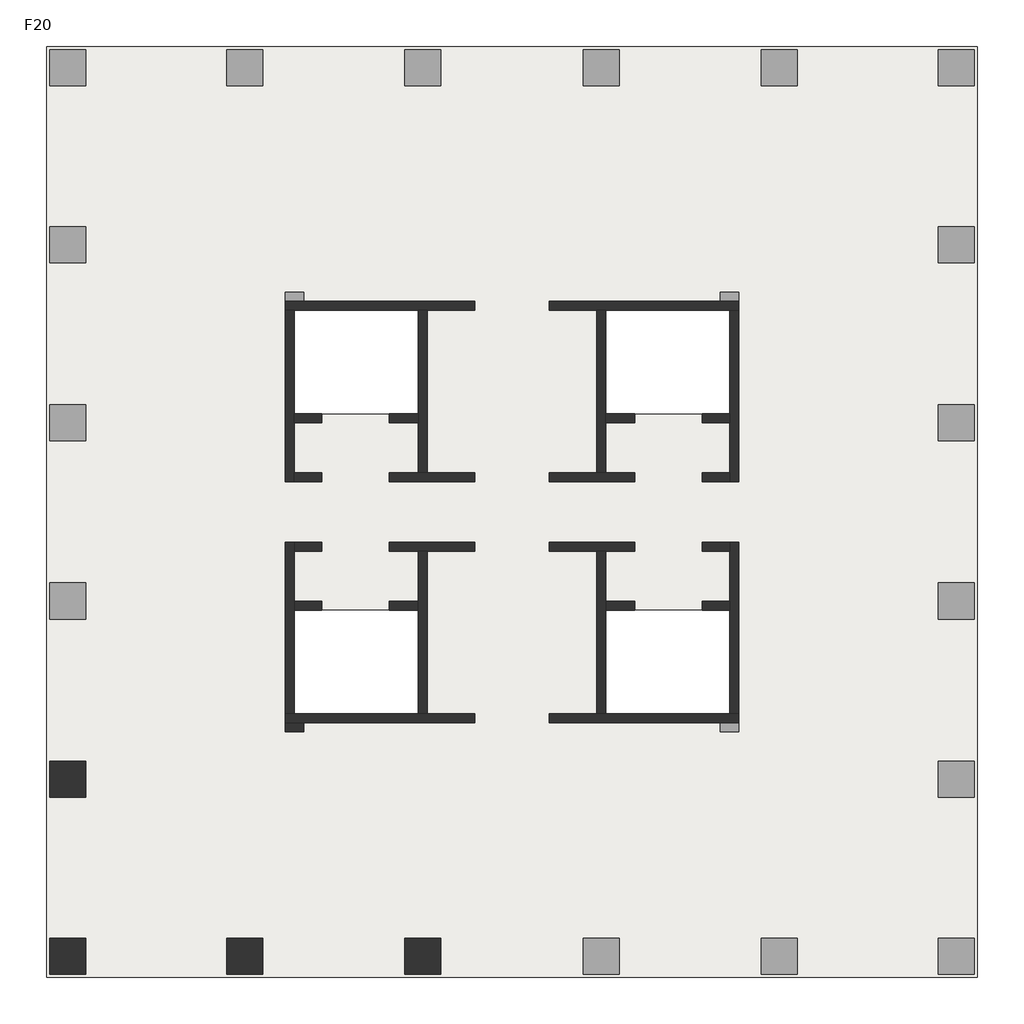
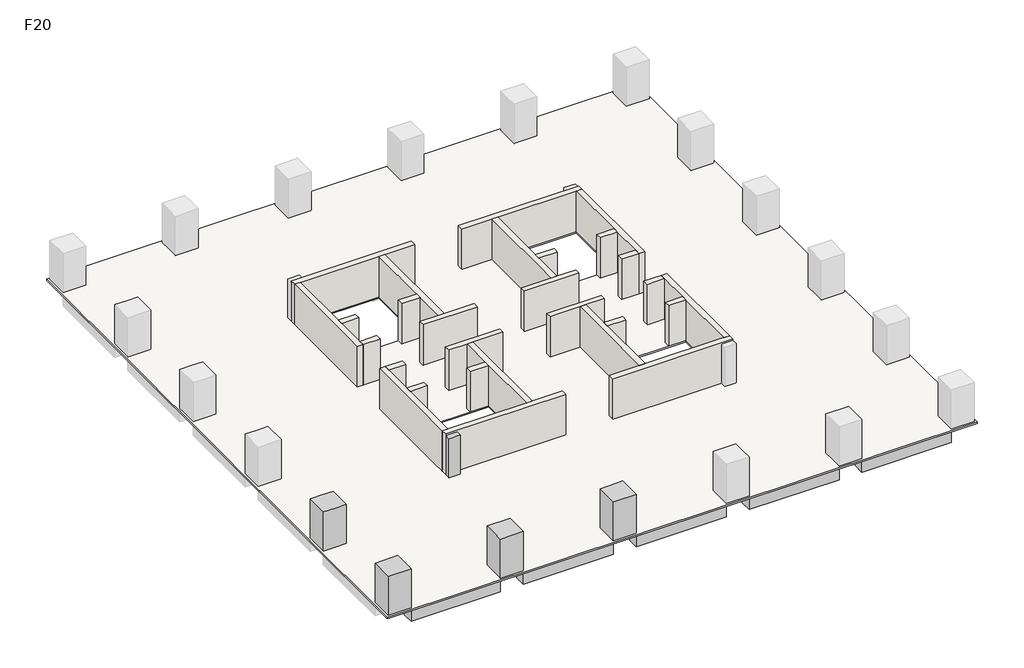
# One storey, part 1 of 2: 28 walls, 5 columns, 3 beams, 1 slab.
"""IFC4 building model written with IfcOpenShell, lengths in millimetres."""

from ifc_helpers import new_model, si_unit, frame, origin, place, context, project, spatial, polyline, outline, extrude, faceted_brep, element, save

model = new_model("IFC4")

# Units and contexts
model_context = context("Model", 3, world=origin())
ifc_project = project(units=[si_unit("LENGTHUNIT", "METRE", prefix="MILLI")], contexts=[model_context])

# Site, building, storey
site = spatial("IfcSite", under=ifc_project)
building = spatial("IfcBuilding", under=site)
storey = spatial("IfcBuildingStorey", under=building, Name="F20", Elevation=78000.0)

# Beams
placement = place(None, origin())
element("IfcBeam", 1, ObjectType="混凝土 - 矩形梁 : KL(5)-800x1000", at=placement, inside=storey, context=model_context, shape_type="SweptSolid", body=[
    extrude(outline(polyline([(-12472.6742169, -13948.9501342), (-12472.6742169, -13148.9501342), (-6222.6742169, -13148.9501342), (-6222.6742169, -13948.9501342), (-12472.6742169, -13948.9501342)])), frame((0.0, 0.0, 77000.0), z_axis=(0.0, 0.0, 1.0), x_axis=(1.0, 0.0, 0.0)), (0.0, 0.0, 1.0), 900.0),
    extrude(outline(polyline([(25327.3257831, -13148.9501342), (25327.3257831, -13948.9501342), (19077.3257831, -13948.9501342), (19077.3257831, -13148.9501342), (25327.3257831, -13148.9501342)])), frame((0.0, 0.0, 77000.0), z_axis=(0.0, 0.0, 1.0), x_axis=(1.0, 0.0, 0.0)), (0.0, 0.0, 1.0), 900.0),
    extrude(outline(polyline([(-4622.6742169, -13948.9501342), (-4622.6742169, -13148.9501342), (1677.3257831, -13148.9501342), (1677.3257831, -13948.9501342), (-4622.6742169, -13948.9501342)])), frame((0.0, 0.0, 77000.0), z_axis=(0.0, 0.0, 1.0), x_axis=(1.0, 0.0, 0.0)), (0.0, 0.0, 1.0), 900.0),
    extrude(outline(polyline([(3277.3257831, -13948.9501342), (3277.3257831, -13148.9501342), (9577.3257831, -13148.9501342), (9577.3257831, -13948.9501342), (3277.3257831, -13948.9501342)])), frame((0.0, 0.0, 77000.0), z_axis=(0.0, 0.0, 1.0), x_axis=(1.0, 0.0, 0.0)), (0.0, 0.0, 1.0), 900.0),
    extrude(outline(polyline([(11177.3257831, -13948.9501342), (11177.3257831, -13148.9501342), (17477.3257831, -13148.9501342), (17477.3257831, -13948.9501342), (11177.3257831, -13948.9501342)])), frame((0.0, 0.0, 77000.0), z_axis=(0.0, 0.0, 1.0), x_axis=(1.0, 0.0, 0.0)), (0.0, 0.0, 1.0), 900.0),
])
element("IfcBeam", 2, ObjectType="混凝土 - 矩形梁 : L1-800x500", at=placement, inside=storey, context=model_context, shape_type="Brep", body=[
    faceted_brep([(-12472.6742169, -5512.1353397, 77500.0), (-3746.9473979, -3341.556529, 77500.0), (-3173.6696907, -3198.9501342, 77500.0), (-3173.6696907, -3198.9501342, 77900.0), (-3746.9473979, -3341.556529, 77900.0), (-12472.6742169, -5512.1353397, 77900.0), (-3622.6742169, -3198.9501342, 77500.0), (-12472.6742169, -4687.7549784, 77500.0), (-3622.6742169, -2486.2624411, 77500.0), (-3622.6742169, -2798.9501342, 77500.0), (-12472.6742169, -4687.7549784, 77900.0), (-3622.6742169, -2486.2624411, 77900.0), (-3622.6742169, -3198.9501342, 77900.0)], [[[0, 1, 2, 3, 4, 5]], [[6, 2, 1, 0, 7, 8, 9]], [[8, 7, 10, 11]], [[2, 6, 12, 3]], [[9, 8, 11, 12, 6]], [[7, 0, 5, 10]], [[5, 4, 3, 12, 11, 10]]]),
])
element("IfcBeam", 3, ObjectType="混凝土 - 矩形梁 : L1-800x500", at=placement, inside=storey, context=model_context, shape_type="SweptSolid", body=[
    extrude(outline(polyline([(-3746.9473979, -3341.556529), (-3173.6696907, -3198.9501342), (-2898.7618154, -3198.9501342), (-4843.6893517, -12348.9501342), (-5661.5624638, -12348.9501342), (-3746.9473979, -3341.556529)])), frame((0.0, 0.0, 77500.0), z_axis=(0.0, 0.0, 1.0), x_axis=(1.0, 0.0, 0.0)), (0.0, 0.0, 1.0), 400.0),
])

# Columns
element("IfcColumn", 4, ObjectType="混凝土 - 矩形 - 柱 : Z1-1600x1600", at=placement, inside=storey, context=model_context, shape_type="Brep", body=[
    faceted_brep([(-12472.6742169, -4498.9501342, 78000.0), (-12472.6742169, -6098.9501342, 78000.0), (-14072.6742169, -6098.9501342, 78000.0), (-14072.6742169, -4498.9501342, 78000.0), (-12472.6742169, -4498.9501342, 80900.0), (-12472.6742169, -6098.9501342, 80900.0), (-13272.6742169, -6098.9501342, 80900.0), (-14072.6742169, -6098.9501342, 80900.0), (-14072.6742169, -6098.9501342, 80000.0), (-14072.6742169, -4498.9501342, 80900.0), (-14072.6742169, -4498.9501342, 80000.0), (-13272.6742169, -4498.9501342, 80900.0)], [[[0, 1, 2, 3]], [[1, 0, 4, 5]], [[2, 1, 5, 6, 7, 8]], [[3, 2, 8, 7, 9, 10]], [[0, 3, 10, 9, 11, 4]], [[5, 4, 11, 9, 7, 6]]]),
])
element("IfcColumn", 5, ObjectType="混凝土 - 矩形 - 柱 : Z1-1600x1600", at=placement, inside=storey, context=model_context, shape_type="SweptSolid", body=[
    extrude(outline(polyline([(-12472.6742169, -12348.9501342), (-12472.6742169, -13948.9501342), (-14072.6742169, -13948.9501342), (-14072.6742169, -12348.9501342), (-12472.6742169, -12348.9501342)])), frame((0.0, 0.0, 78000.0), z_axis=(0.0, 0.0, 1.0), x_axis=(1.0, 0.0, 0.0)), (0.0, 0.0, 1.0), 2900.0),
])
element("IfcColumn", 6, ObjectType="混凝土 - 矩形 - 柱 : Z1-1600x1600", at=placement, inside=storey, context=model_context, shape_type="Brep", body=[
    faceted_brep([(-4622.6742169, -12348.9501342, 78000.0), (-4622.6742169, -13948.9501342, 78000.0), (-6222.6742169, -13948.9501342, 78000.0), (-6222.6742169, -12348.9501342, 78000.0), (-4622.6742169, -12348.9501342, 80900.0), (-4622.6742169, -13148.9501342, 80900.0), (-4622.6742169, -13948.9501342, 80900.0), (-4622.6742169, -13948.9501342, 80000.0), (-6222.6742169, -13948.9501342, 80900.0), (-6222.6742169, -13948.9501342, 80000.0), (-6222.6742169, -13148.9501342, 80900.0), (-6222.6742169, -12348.9501342, 80900.0)], [[[0, 1, 2, 3]], [[1, 0, 4, 5, 6, 7]], [[2, 1, 7, 6, 8, 9]], [[3, 2, 9, 8, 10, 11]], [[0, 3, 11, 4]], [[6, 5, 4, 11, 10, 8]]]),
])
element("IfcColumn", 7, ObjectType="混凝土 - 矩形 - 柱 : Z1-1600x1600", at=placement, inside=storey, context=model_context, shape_type="Brep", body=[
    faceted_brep([(3277.3257831, -12348.9501342, 78000.0), (3277.3257831, -13948.9501342, 78000.0), (1677.3257831, -13948.9501342, 78000.0), (1677.3257831, -12348.9501342, 78000.0), (3277.3257831, -12348.9501342, 80900.0), (3277.3257831, -13148.9501342, 80900.0), (3277.3257831, -13948.9501342, 80900.0), (3277.3257831, -13948.9501342, 80000.0), (1677.3257831, -13948.9501342, 80900.0), (1677.3257831, -13948.9501342, 80000.0), (1677.3257831, -13148.9501342, 80900.0), (1677.3257831, -12348.9501342, 80900.0)], [[[0, 1, 2, 3]], [[1, 0, 4, 5, 6, 7]], [[2, 1, 7, 6, 8, 9]], [[3, 2, 9, 8, 10, 11]], [[0, 3, 11, 4]], [[6, 5, 4, 11, 10, 8]]]),
])
element("IfcColumn", 8, ObjectType="混凝土 - 矩形 - 柱 : Z2-800x800", at=placement, inside=storey, context=model_context, shape_type="SweptSolid", body=[
    extrude(outline(polyline([(-2822.6742169, -3198.9501342), (-3622.6742169, -3198.9501342), (-3622.6742169, -2798.9501342), (-2822.6742169, -2798.9501342), (-2822.6742169, -3198.9501342)])), frame((0.0, 0.0, 78000.0), z_axis=(0.0, 0.0, 1.0), x_axis=(1.0, 0.0, 0.0)), (0.0, 0.0, 1.0), 2900.0),
])

# Slab
element("IfcSlab", 9, ObjectType="LB-100", at=placement, inside=storey, context=model_context, shape_type="SweptSolid", body=[
    extrude(outline(polyline([(27077.3257831, 27201.0498658), (27077.3257831, -14085.2672073), (-14222.6742169, -14085.2672073), (-14222.6742169, 27201.0498658), (27077.3257831, 27201.0498658)]), holes=[polyline([(2277.3257831, 15501.0498658), (-3222.6742169, 15501.0498658), (-3222.6742169, 10901.0498658), (2277.3257831, 10901.0498658), (2277.3257831, 15501.0498658)]), polyline([(2277.3257831, 2201.0498658), (-3222.6742169, 2201.0498658), (-3222.6742169, -2398.9501342), (2277.3257831, -2398.9501342), (2277.3257831, 2201.0498658)]), polyline([(16077.3257831, 2201.0498658), (10577.3257831, 2201.0498658), (10577.3257831, -2398.9501342), (16077.3257831, -2398.9501342), (16077.3257831, 2201.0498658)]), polyline([(16077.3257831, 15501.0498658), (10577.3257831, 15501.0498658), (10577.3257831, 10901.0498658), (16077.3257831, 10901.0498658), (16077.3257831, 15501.0498658)])]), frame((0.0, 0.0, 77900.0), z_axis=(0.0, 0.0, 1.0), x_axis=(1.0, 0.0, 0.0)), (0.0, 0.0, 1.0), 100.0),
])

# Walls
element("IfcWall", 10, ObjectType="剪力墙-400", at=placement, inside=storey, context=model_context, shape_type="Brep", body=[
    faceted_brep([(-3622.6742169, 15501.0498658, 78000.0), (-3222.6742169, 15501.0498658, 78000.0), (2277.3257831, 15501.0498658, 78000.0), (2677.3257831, 15501.0498658, 78000.0), (4777.3257831, 15501.0498658, 78000.0), (4777.3257831, 15501.0498658, 81000.0), (2677.3257831, 15501.0498658, 81000.0), (2277.3257831, 15501.0498658, 81000.0), (-3222.6742169, 15501.0498658, 81000.0), (-3622.6742169, 15501.0498658, 81000.0), (-3622.6742169, 15901.0498658, 78000.0), (-3622.6742169, 15901.0498658, 80900.0), (-3622.6742169, 15901.0498658, 81000.0), (4777.3257831, 15901.0498658, 81000.0), (4777.3257831, 15901.0498658, 78000.0), (-2822.6742169, 15901.0498658, 78000.0)], [[[0, 1, 2, 3, 4, 5, 6, 7, 8, 9]], [[10, 11, 12, 13, 14, 15]], [[4, 3, 2, 1, 0, 10, 15, 14]], [[5, 4, 14, 13]], [[9, 8, 7, 6, 5, 13, 12]], [[0, 9, 12, 11, 10]]]),
])
element("IfcWall", 11, ObjectType="剪力墙-400", at=placement, inside=storey, context=model_context, shape_type="Brep", body=[
    faceted_brep([(2277.3257831, 15501.0498658, 78000.0), (2277.3257831, 10901.0498658, 78000.0), (2277.3257831, 10501.0498658, 78000.0), (2277.3257831, 8301.0498658, 78000.0), (2277.3257831, 8301.0498658, 81000.0), (2277.3257831, 10501.0498658, 81000.0), (2277.3257831, 10901.0498658, 81000.0), (2277.3257831, 15501.0498658, 81000.0), (2677.3257831, 15501.0498658, 78000.0), (2677.3257831, 15501.0498658, 81000.0), (2677.3257831, 8301.0498658, 81000.0), (2677.3257831, 8301.0498658, 78000.0)], [[[0, 1, 2, 3, 4, 5, 6, 7]], [[8, 9, 10, 11]], [[3, 2, 1, 0, 8, 11]], [[7, 6, 5, 4, 10, 9]], [[0, 7, 9, 8]], [[4, 3, 11, 10]]]),
])
element("IfcWall", 12, ObjectType="剪力墙-400", at=placement, inside=storey, context=model_context, shape_type="Brep", body=[
    faceted_brep([(-3622.6742169, 15501.0498658, 78000.0), (-3622.6742169, 7901.0498658, 78000.0), (-3622.6742169, 7901.0498658, 81000.0), (-3622.6742169, 15501.0498658, 81000.0), (-3222.6742169, 15501.0498658, 78000.0), (-3222.6742169, 15501.0498658, 81000.0), (-3222.6742169, 10901.0498658, 81000.0), (-3222.6742169, 10501.0498658, 81000.0), (-3222.6742169, 8301.0498658, 81000.0), (-3222.6742169, 7901.0498658, 81000.0), (-3222.6742169, 7901.0498658, 78000.0), (-3222.6742169, 8301.0498658, 78000.0), (-3222.6742169, 10501.0498658, 78000.0), (-3222.6742169, 10901.0498658, 78000.0)], [[[0, 1, 2, 3]], [[4, 5, 6, 7, 8, 9, 10, 11, 12, 13]], [[1, 0, 4, 13, 12, 11, 10]], [[3, 2, 9, 8, 7, 6, 5]], [[0, 3, 5, 4]], [[2, 1, 10, 9]]]),
])
element("IfcWall", 13, ObjectType="剪力墙-400", at=placement, inside=storey, context=model_context, shape_type="SweptSolid", body=[
    extrude(outline(polyline([(-2022.6742169, 7901.0498658), (-3222.6742169, 7901.0498658), (-3222.6742169, 8301.0498658), (-2022.6742169, 8301.0498658), (-2022.6742169, 7901.0498658)])), frame((0.0, 0.0, 78000.0), z_axis=(0.0, 0.0, 1.0), x_axis=(1.0, 0.0, 0.0)), (0.0, 0.0, 1.0), 3000.0),
])
element("IfcWall", 14, ObjectType="剪力墙-400", at=placement, inside=storey, context=model_context, shape_type="Brep", body=[
    faceted_brep([(977.3257831, 7901.0498658, 78000.0), (4777.3257831, 7901.0498658, 78000.0), (4777.3257831, 7901.0498658, 81000.0), (977.3257831, 7901.0498658, 81000.0), (977.3257831, 8301.0498658, 78000.0), (977.3257831, 8301.0498658, 81000.0), (2277.3257831, 8301.0498658, 81000.0), (2677.3257831, 8301.0498658, 81000.0), (4777.3257831, 8301.0498658, 81000.0), (4777.3257831, 8301.0498658, 78000.0), (2677.3257831, 8301.0498658, 78000.0), (2277.3257831, 8301.0498658, 78000.0)], [[[0, 1, 2, 3]], [[4, 5, 6, 7, 8, 9, 10, 11]], [[1, 0, 4, 11, 10, 9]], [[2, 1, 9, 8]], [[3, 2, 8, 7, 6, 5]], [[0, 3, 5, 4]]]),
])
element("IfcWall", 15, ObjectType="剪力墙-400", at=placement, inside=storey, context=model_context, shape_type="SweptSolid", body=[
    extrude(outline(polyline([(-2022.6742169, 10501.0498658), (-3222.6742169, 10501.0498658), (-3222.6742169, 10901.0498658), (-2022.6742169, 10901.0498658), (-2022.6742169, 10501.0498658)])), frame((0.0, 0.0, 78000.0), z_axis=(0.0, 0.0, 1.0), x_axis=(1.0, 0.0, 0.0)), (0.0, 0.0, 1.0), 3000.0),
])
element("IfcWall", 16, ObjectType="剪力墙-400", at=placement, inside=storey, context=model_context, shape_type="SweptSolid", body=[
    extrude(outline(polyline([(2277.3257831, 10501.0498658), (977.3257831, 10501.0498658), (977.3257831, 10901.0498658), (2277.3257831, 10901.0498658), (2277.3257831, 10501.0498658)])), frame((0.0, 0.0, 78000.0), z_axis=(0.0, 0.0, 1.0), x_axis=(1.0, 0.0, 0.0)), (0.0, 0.0, 1.0), 3000.0),
])
element("IfcWall", 17, ObjectType="剪力墙-400", at=placement, inside=storey, context=model_context, shape_type="Brep", body=[
    faceted_brep([(16477.3257831, 15901.0498658, 78000.0), (15677.3257831, 15901.0498658, 78000.0), (8077.3257831, 15901.0498658, 78000.0), (8077.3257831, 15901.0498658, 81000.0), (16477.3257831, 15901.0498658, 81000.0), (16477.3257831, 15901.0498658, 80900.0), (16477.3257831, 15501.0498658, 78000.0), (16477.3257831, 15501.0498658, 81000.0), (16077.3257831, 15501.0498658, 81000.0), (10577.3257831, 15501.0498658, 81000.0), (10177.3257831, 15501.0498658, 81000.0), (8077.3257831, 15501.0498658, 81000.0), (8077.3257831, 15501.0498658, 78000.0), (10177.3257831, 15501.0498658, 78000.0), (10577.3257831, 15501.0498658, 78000.0), (16077.3257831, 15501.0498658, 78000.0)], [[[0, 1, 2, 3, 4, 5]], [[6, 7, 8, 9, 10, 11, 12, 13, 14, 15]], [[2, 1, 0, 6, 15, 14, 13, 12]], [[3, 2, 12, 11]], [[4, 3, 11, 10, 9, 8, 7]], [[0, 5, 4, 7, 6]]]),
])
element("IfcWall", 18, ObjectType="剪力墙-400", at=placement, inside=storey, context=model_context, shape_type="Brep", body=[
    faceted_brep([(10177.3257831, 15501.0498658, 78000.0), (10177.3257831, 8301.0498658, 78000.0), (10177.3257831, 8301.0498658, 81000.0), (10177.3257831, 15501.0498658, 81000.0), (10577.3257831, 15501.0498658, 78000.0), (10577.3257831, 15501.0498658, 81000.0), (10577.3257831, 10901.0498658, 81000.0), (10577.3257831, 10501.0498658, 81000.0), (10577.3257831, 8301.0498658, 81000.0), (10577.3257831, 8301.0498658, 78000.0), (10577.3257831, 10501.0498658, 78000.0), (10577.3257831, 10901.0498658, 78000.0)], [[[0, 1, 2, 3]], [[4, 5, 6, 7, 8, 9, 10, 11]], [[1, 0, 4, 11, 10, 9]], [[3, 2, 8, 7, 6, 5]], [[0, 3, 5, 4]], [[2, 1, 9, 8]]]),
])
element("IfcWall", 19, ObjectType="剪力墙-400", at=placement, inside=storey, context=model_context, shape_type="Brep", body=[
    faceted_brep([(16077.3257831, 15501.0498658, 78000.0), (16077.3257831, 10901.0498658, 78000.0), (16077.3257831, 10501.0498658, 78000.0), (16077.3257831, 8301.0498658, 78000.0), (16077.3257831, 7901.0498658, 78000.0), (16077.3257831, 7901.0498658, 81000.0), (16077.3257831, 8301.0498658, 81000.0), (16077.3257831, 10501.0498658, 81000.0), (16077.3257831, 10901.0498658, 81000.0), (16077.3257831, 15501.0498658, 81000.0), (16477.3257831, 15501.0498658, 78000.0), (16477.3257831, 15501.0498658, 81000.0), (16477.3257831, 7901.0498658, 81000.0), (16477.3257831, 7901.0498658, 78000.0)], [[[0, 1, 2, 3, 4, 5, 6, 7, 8, 9]], [[10, 11, 12, 13]], [[4, 3, 2, 1, 0, 10, 13]], [[9, 8, 7, 6, 5, 12, 11]], [[0, 9, 11, 10]], [[5, 4, 13, 12]]]),
])
element("IfcWall", 20, ObjectType="剪力墙-400", at=placement, inside=storey, context=model_context, shape_type="SweptSolid", body=[
    extrude(outline(polyline([(14877.3257831, 8301.0498658), (16077.3257831, 8301.0498658), (16077.3257831, 7901.0498658), (14877.3257831, 7901.0498658), (14877.3257831, 8301.0498658)])), frame((0.0, 0.0, 78000.0), z_axis=(0.0, 0.0, 1.0), x_axis=(1.0, 0.0, 0.0)), (0.0, 0.0, 1.0), 3000.0),
])
element("IfcWall", 21, ObjectType="剪力墙-400", at=placement, inside=storey, context=model_context, shape_type="Brep", body=[
    faceted_brep([(11877.3257831, 8301.0498658, 78000.0), (10577.3257831, 8301.0498658, 78000.0), (10177.3257831, 8301.0498658, 78000.0), (8077.3257831, 8301.0498658, 78000.0), (8077.3257831, 8301.0498658, 81000.0), (10177.3257831, 8301.0498658, 81000.0), (10577.3257831, 8301.0498658, 81000.0), (11877.3257831, 8301.0498658, 81000.0), (11877.3257831, 7901.0498658, 78000.0), (11877.3257831, 7901.0498658, 81000.0), (8077.3257831, 7901.0498658, 81000.0), (8077.3257831, 7901.0498658, 78000.0)], [[[0, 1, 2, 3, 4, 5, 6, 7]], [[8, 9, 10, 11]], [[3, 2, 1, 0, 8, 11]], [[4, 3, 11, 10]], [[7, 6, 5, 4, 10, 9]], [[0, 7, 9, 8]]]),
])
element("IfcWall", 22, ObjectType="剪力墙-400", at=placement, inside=storey, context=model_context, shape_type="SweptSolid", body=[
    extrude(outline(polyline([(14877.3257831, 10901.0498658), (16077.3257831, 10901.0498658), (16077.3257831, 10501.0498658), (14877.3257831, 10501.0498658), (14877.3257831, 10901.0498658)])), frame((0.0, 0.0, 78000.0), z_axis=(0.0, 0.0, 1.0), x_axis=(1.0, 0.0, 0.0)), (0.0, 0.0, 1.0), 3000.0),
])
element("IfcWall", 23, ObjectType="剪力墙-400", at=placement, inside=storey, context=model_context, shape_type="SweptSolid", body=[
    extrude(outline(polyline([(10577.3257831, 10901.0498658), (11877.3257831, 10901.0498658), (11877.3257831, 10501.0498658), (10577.3257831, 10501.0498658), (10577.3257831, 10901.0498658)])), frame((0.0, 0.0, 78000.0), z_axis=(0.0, 0.0, 1.0), x_axis=(1.0, 0.0, 0.0)), (0.0, 0.0, 1.0), 3000.0),
])
element("IfcWall", 24, ObjectType="剪力墙-400", at=placement, inside=storey, context=model_context, shape_type="Brep", body=[
    faceted_brep([(-3622.6742169, -2798.9501342, 78000.0), (-2822.6742169, -2798.9501342, 78000.0), (4777.3257831, -2798.9501342, 78000.0), (4777.3257831, -2798.9501342, 81000.0), (-3622.6742169, -2798.9501342, 81000.0), (-3622.6742169, -2798.9501342, 80900.0), (-3622.6742169, -2398.9501342, 78000.0), (-3622.6742169, -2398.9501342, 81000.0), (-3222.6742169, -2398.9501342, 81000.0), (2277.3257831, -2398.9501342, 81000.0), (2677.3257831, -2398.9501342, 81000.0), (4777.3257831, -2398.9501342, 81000.0), (4777.3257831, -2398.9501342, 78000.0), (2677.3257831, -2398.9501342, 78000.0), (2277.3257831, -2398.9501342, 78000.0), (-3222.6742169, -2398.9501342, 78000.0)], [[[0, 1, 2, 3, 4, 5]], [[6, 7, 8, 9, 10, 11, 12, 13, 14, 15]], [[2, 1, 0, 6, 15, 14, 13, 12]], [[3, 2, 12, 11]], [[4, 3, 11, 10, 9, 8, 7]], [[0, 5, 4, 7, 6]]]),
])
element("IfcWall", 25, ObjectType="剪力墙-400", at=placement, inside=storey, context=model_context, shape_type="Brep", body=[
    faceted_brep([(2677.3257831, -2398.9501342, 78000.0), (2677.3257831, 4801.0498658, 78000.0), (2677.3257831, 4801.0498658, 81000.0), (2677.3257831, -2398.9501342, 81000.0), (2277.3257831, -2398.9501342, 78000.0), (2277.3257831, -2398.9501342, 81000.0), (2277.3257831, 2201.0498658, 81000.0), (2277.3257831, 2601.0498658, 81000.0), (2277.3257831, 4801.0498658, 81000.0), (2277.3257831, 4801.0498658, 78000.0), (2277.3257831, 2601.0498658, 78000.0), (2277.3257831, 2201.0498658, 78000.0)], [[[0, 1, 2, 3]], [[4, 5, 6, 7, 8, 9, 10, 11]], [[1, 0, 4, 11, 10, 9]], [[3, 2, 8, 7, 6, 5]], [[0, 3, 5, 4]], [[2, 1, 9, 8]]]),
])
element("IfcWall", 26, ObjectType="剪力墙-400", at=placement, inside=storey, context=model_context, shape_type="Brep", body=[
    faceted_brep([(-3222.6742169, -2398.9501342, 78000.0), (-3222.6742169, 2201.0498658, 78000.0), (-3222.6742169, 2601.0498658, 78000.0), (-3222.6742169, 4801.0498658, 78000.0), (-3222.6742169, 5201.0498658, 78000.0), (-3222.6742169, 5201.0498658, 81000.0), (-3222.6742169, 4801.0498658, 81000.0), (-3222.6742169, 2601.0498658, 81000.0), (-3222.6742169, 2201.0498658, 81000.0), (-3222.6742169, -2398.9501342, 81000.0), (-3622.6742169, -2398.9501342, 78000.0), (-3622.6742169, -2398.9501342, 81000.0), (-3622.6742169, 5201.0498658, 81000.0), (-3622.6742169, 5201.0498658, 78000.0)], [[[0, 1, 2, 3, 4, 5, 6, 7, 8, 9]], [[10, 11, 12, 13]], [[4, 3, 2, 1, 0, 10, 13]], [[9, 8, 7, 6, 5, 12, 11]], [[0, 9, 11, 10]], [[5, 4, 13, 12]]]),
])
element("IfcWall", 27, ObjectType="剪力墙-400", at=placement, inside=storey, context=model_context, shape_type="SweptSolid", body=[
    extrude(outline(polyline([(-2022.6742169, 4801.0498658), (-3222.6742169, 4801.0498658), (-3222.6742169, 5201.0498658), (-2022.6742169, 5201.0498658), (-2022.6742169, 4801.0498658)])), frame((0.0, 0.0, 78000.0), z_axis=(0.0, 0.0, 1.0), x_axis=(1.0, 0.0, 0.0)), (0.0, 0.0, 1.0), 3000.0),
])
element("IfcWall", 28, ObjectType="剪力墙-400", at=placement, inside=storey, context=model_context, shape_type="Brep", body=[
    faceted_brep([(977.3257831, 4801.0498658, 78000.0), (2277.3257831, 4801.0498658, 78000.0), (2677.3257831, 4801.0498658, 78000.0), (4777.3257831, 4801.0498658, 78000.0), (4777.3257831, 4801.0498658, 81000.0), (2677.3257831, 4801.0498658, 81000.0), (2277.3257831, 4801.0498658, 81000.0), (977.3257831, 4801.0498658, 81000.0), (977.3257831, 5201.0498658, 78000.0), (977.3257831, 5201.0498658, 81000.0), (4777.3257831, 5201.0498658, 81000.0), (4777.3257831, 5201.0498658, 78000.0)], [[[0, 1, 2, 3, 4, 5, 6, 7]], [[8, 9, 10, 11]], [[3, 2, 1, 0, 8, 11]], [[4, 3, 11, 10]], [[7, 6, 5, 4, 10, 9]], [[0, 7, 9, 8]]]),
])
element("IfcWall", 29, ObjectType="剪力墙-400", at=placement, inside=storey, context=model_context, shape_type="SweptSolid", body=[
    extrude(outline(polyline([(-2022.6742169, 2201.0498658), (-3222.6742169, 2201.0498658), (-3222.6742169, 2601.0498658), (-2022.6742169, 2601.0498658), (-2022.6742169, 2201.0498658)])), frame((0.0, 0.0, 78000.0), z_axis=(0.0, 0.0, 1.0), x_axis=(1.0, 0.0, 0.0)), (0.0, 0.0, 1.0), 3000.0),
])
element("IfcWall", 30, ObjectType="剪力墙-400", at=placement, inside=storey, context=model_context, shape_type="SweptSolid", body=[
    extrude(outline(polyline([(2277.3257831, 2201.0498658), (977.3257831, 2201.0498658), (977.3257831, 2601.0498658), (2277.3257831, 2601.0498658), (2277.3257831, 2201.0498658)])), frame((0.0, 0.0, 78000.0), z_axis=(0.0, 0.0, 1.0), x_axis=(1.0, 0.0, 0.0)), (0.0, 0.0, 1.0), 3000.0),
])
element("IfcWall", 31, ObjectType="剪力墙-400", at=placement, inside=storey, context=model_context, shape_type="Brep", body=[
    faceted_brep([(16477.3257831, -2398.9501342, 78000.0), (16077.3257831, -2398.9501342, 78000.0), (10577.3257831, -2398.9501342, 78000.0), (10177.3257831, -2398.9501342, 78000.0), (8077.3257831, -2398.9501342, 78000.0), (8077.3257831, -2398.9501342, 81000.0), (10177.3257831, -2398.9501342, 81000.0), (10577.3257831, -2398.9501342, 81000.0), (16077.3257831, -2398.9501342, 81000.0), (16477.3257831, -2398.9501342, 81000.0), (16477.3257831, -2798.9501342, 78000.0), (16477.3257831, -2798.9501342, 80900.0), (16477.3257831, -2798.9501342, 81000.0), (8077.3257831, -2798.9501342, 81000.0), (8077.3257831, -2798.9501342, 78000.0), (15677.3257831, -2798.9501342, 78000.0)], [[[0, 1, 2, 3, 4, 5, 6, 7, 8, 9]], [[10, 11, 12, 13, 14, 15]], [[4, 3, 2, 1, 0, 10, 15, 14]], [[5, 4, 14, 13]], [[9, 8, 7, 6, 5, 13, 12]], [[0, 9, 12, 11, 10]]]),
])
element("IfcWall", 32, ObjectType="剪力墙-400", at=placement, inside=storey, context=model_context, shape_type="Brep", body=[
    faceted_brep([(10577.3257831, -2398.9501342, 78000.0), (10577.3257831, 2201.0498658, 78000.0), (10577.3257831, 2601.0498658, 78000.0), (10577.3257831, 4801.0498658, 78000.0), (10577.3257831, 4801.0498658, 81000.0), (10577.3257831, 2601.0498658, 81000.0), (10577.3257831, 2201.0498658, 81000.0), (10577.3257831, -2398.9501342, 81000.0), (10177.3257831, -2398.9501342, 78000.0), (10177.3257831, -2398.9501342, 81000.0), (10177.3257831, 4801.0498658, 81000.0), (10177.3257831, 4801.0498658, 78000.0)], [[[0, 1, 2, 3, 4, 5, 6, 7]], [[8, 9, 10, 11]], [[3, 2, 1, 0, 8, 11]], [[7, 6, 5, 4, 10, 9]], [[0, 7, 9, 8]], [[4, 3, 11, 10]]]),
])
element("IfcWall", 33, ObjectType="剪力墙-400", at=placement, inside=storey, context=model_context, shape_type="Brep", body=[
    faceted_brep([(16477.3257831, -2398.9501342, 78000.0), (16477.3257831, 5201.0498658, 78000.0), (16477.3257831, 5201.0498658, 81000.0), (16477.3257831, -2398.9501342, 81000.0), (16077.3257831, -2398.9501342, 78000.0), (16077.3257831, -2398.9501342, 81000.0), (16077.3257831, 2201.0498658, 81000.0), (16077.3257831, 2601.0498658, 81000.0), (16077.3257831, 4801.0498658, 81000.0), (16077.3257831, 5201.0498658, 81000.0), (16077.3257831, 5201.0498658, 78000.0), (16077.3257831, 4801.0498658, 78000.0), (16077.3257831, 2601.0498658, 78000.0), (16077.3257831, 2201.0498658, 78000.0)], [[[0, 1, 2, 3]], [[4, 5, 6, 7, 8, 9, 10, 11, 12, 13]], [[1, 0, 4, 13, 12, 11, 10]], [[3, 2, 9, 8, 7, 6, 5]], [[0, 3, 5, 4]], [[2, 1, 10, 9]]]),
])
element("IfcWall", 34, ObjectType="剪力墙-400", at=placement, inside=storey, context=model_context, shape_type="SweptSolid", body=[
    extrude(outline(polyline([(14877.3257831, 5201.0498658), (16077.3257831, 5201.0498658), (16077.3257831, 4801.0498658), (14877.3257831, 4801.0498658), (14877.3257831, 5201.0498658)])), frame((0.0, 0.0, 78000.0), z_axis=(0.0, 0.0, 1.0), x_axis=(1.0, 0.0, 0.0)), (0.0, 0.0, 1.0), 3000.0),
])
element("IfcWall", 35, ObjectType="剪力墙-400", at=placement, inside=storey, context=model_context, shape_type="Brep", body=[
    faceted_brep([(11877.3257831, 5201.0498658, 78000.0), (8077.3257831, 5201.0498658, 78000.0), (8077.3257831, 5201.0498658, 81000.0), (11877.3257831, 5201.0498658, 81000.0), (11877.3257831, 4801.0498658, 78000.0), (11877.3257831, 4801.0498658, 81000.0), (10577.3257831, 4801.0498658, 81000.0), (10177.3257831, 4801.0498658, 81000.0), (8077.3257831, 4801.0498658, 81000.0), (8077.3257831, 4801.0498658, 78000.0), (10177.3257831, 4801.0498658, 78000.0), (10577.3257831, 4801.0498658, 78000.0)], [[[0, 1, 2, 3]], [[4, 5, 6, 7, 8, 9, 10, 11]], [[1, 0, 4, 11, 10, 9]], [[2, 1, 9, 8]], [[3, 2, 8, 7, 6, 5]], [[0, 3, 5, 4]]]),
])
element("IfcWall", 36, ObjectType="剪力墙-400", at=placement, inside=storey, context=model_context, shape_type="SweptSolid", body=[
    extrude(outline(polyline([(14877.3257831, 2601.0498658), (16077.3257831, 2601.0498658), (16077.3257831, 2201.0498658), (14877.3257831, 2201.0498658), (14877.3257831, 2601.0498658)])), frame((0.0, 0.0, 78000.0), z_axis=(0.0, 0.0, 1.0), x_axis=(1.0, 0.0, 0.0)), (0.0, 0.0, 1.0), 3000.0),
])
element("IfcWall", 37, ObjectType="剪力墙-400", at=placement, inside=storey, context=model_context, shape_type="SweptSolid", body=[
    extrude(outline(polyline([(10577.3257831, 2601.0498658), (11877.3257831, 2601.0498658), (11877.3257831, 2201.0498658), (10577.3257831, 2201.0498658), (10577.3257831, 2601.0498658)])), frame((0.0, 0.0, 78000.0), z_axis=(0.0, 0.0, 1.0), x_axis=(1.0, 0.0, 0.0)), (0.0, 0.0, 1.0), 3000.0),
])

save(model, "model.ifc")
